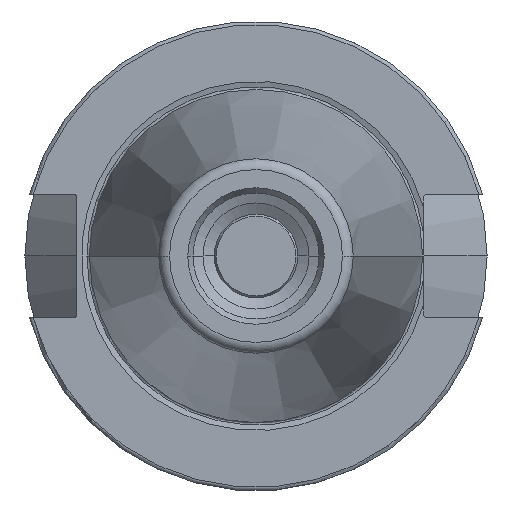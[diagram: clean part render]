
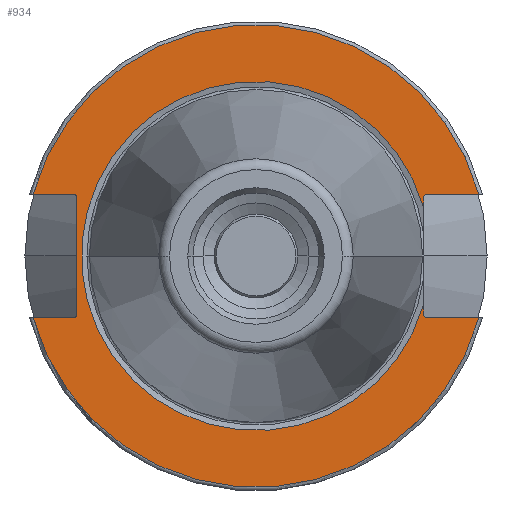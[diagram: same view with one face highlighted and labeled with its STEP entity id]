
A CAD part, left-side view. The second image highlights one B-rep face of the part: STEP entity #934.
In plain terms, the highlighted planar face has unit normal (-1, 0, 0).
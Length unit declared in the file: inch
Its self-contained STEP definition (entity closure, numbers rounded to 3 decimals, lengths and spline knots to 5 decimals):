
#137 = VECTOR ( 'NONE', #6343, 39.37008 ) ;
#167 = VECTOR ( 'NONE', #1855, 39.37008 ) ;
#215 = DIRECTION ( 'NONE',  ( 0., 1., 0. ) ) ;
#340 = EDGE_CURVE ( 'NONE', #7145, #3178, #851, .T. ) ;
#368 = FACE_OUTER_BOUND ( 'NONE', #2582, .T. ) ;
#421 = CARTESIAN_POINT ( 'NONE',  ( 0.125, -1.4125, 0.51 ) ) ;
#426 = AXIS2_PLACEMENT_3D ( 'NONE', #5133, #2143, #1136 ) ;
#531 = CARTESIAN_POINT ( 'NONE',  ( 0.125, 0., -0.51 ) ) ;
#540 = VERTEX_POINT ( 'NONE', #6314 ) ;
#772 = EDGE_CURVE ( 'NONE', #7086, #3706, #1410, .T. ) ;
#793 = ORIENTED_EDGE ( 'NONE', *, *, #340, .T. ) ;
#851 = LINE ( 'NONE', #7061, #3865 ) ;
#866 = DIRECTION ( 'NONE',  ( -1., 0., 0. ) ) ;
#920 = PLANE ( 'NONE',  #2570 ) ;
#934 = ADVANCED_FACE ( 'NONE', ( #368 ), #920, .T. ) ;
#1002 = LINE ( 'NONE', #6868, #137 ) ;
#1080 = LINE ( 'NONE', #3909, #2025 ) ;
#1127 = CARTESIAN_POINT ( 'NONE',  ( 0.125, -1.3825, 0.48 ) ) ;
#1128 = CARTESIAN_POINT ( 'NONE',  ( 0.125, 0., 0. ) ) ;
#1136 = DIRECTION ( 'NONE',  ( 0., 1., 0. ) ) ;
#1187 = VECTOR ( 'NONE', #4223, 39.37008 ) ;
#1242 = CARTESIAN_POINT ( 'NONE',  ( 0.125, 1.4775, 1.9075 ) ) ;
#1325 = CARTESIAN_POINT ( 'NONE',  ( 0.125, 1.5075, 0.51 ) ) ;
#1410 = LINE ( 'NONE', #1242, #167 ) ;
#1554 = DIRECTION ( 'NONE',  ( 0., 0., 1. ) ) ;
#1641 = DIRECTION ( 'NONE',  ( 0., -1., 0. ) ) ;
#1675 = DIRECTION ( 'NONE',  ( 1., 0., 0. ) ) ;
#1701 = EDGE_CURVE ( 'NONE', #3178, #3025, #3741, .T. ) ;
#1711 = CARTESIAN_POINT ( 'NONE',  ( 0.125, -1.4125, 0.48 ) ) ;
#1718 = CARTESIAN_POINT ( 'NONE',  ( 0.125, -1.4125, -0.48 ) ) ;
#1804 = CARTESIAN_POINT ( 'NONE',  ( 0.125, 0., 0.51 ) ) ;
#1855 = DIRECTION ( 'NONE',  ( 0., 0., 1. ) ) ;
#1892 = DIRECTION ( 'NONE',  ( 0., 0., 1. ) ) ;
#1924 = EDGE_CURVE ( 'NONE', #4066, #6279, #7349, .T. ) ;
#1943 = VECTOR ( 'NONE', #4664, 39.37008 ) ;
#2012 = CARTESIAN_POINT ( 'NONE',  ( 0.125, 1.5075, -0.51 ) ) ;
#2025 = VECTOR ( 'NONE', #1554, 39.37008 ) ;
#2045 = CARTESIAN_POINT ( 'NONE',  ( 0.125, 1.5075, -0.48 ) ) ;
#2143 = DIRECTION ( 'NONE',  ( 1., 0., 0. ) ) ;
#2222 = CIRCLE ( 'NONE', #3020, 0.03 ) ;
#2227 = DIRECTION ( 'NONE',  ( 1., 0., 0. ) ) ;
#2401 = LINE ( 'NONE', #531, #1187 ) ;
#2464 = ORIENTED_EDGE ( 'NONE', *, *, #3662, .T. ) ;
#2465 = AXIS2_PLACEMENT_3D ( 'NONE', #1718, #2227, #1641 ) ;
#2538 = AXIS2_PLACEMENT_3D ( 'NONE', #7490, #5005, #6162 ) ;
#2570 = AXIS2_PLACEMENT_3D ( 'NONE', #6289, #866, #5727 ) ;
#2582 = EDGE_LOOP ( 'NONE', ( #4392, #3558, #7113, #5152, #5410, #4890, #793, #5670, #2464, #6307, #5479, #4503, #6570, #6208 ) ) ;
#2591 = DIRECTION ( 'NONE',  ( 1., 0., 0. ) ) ;
#2612 = EDGE_CURVE ( 'NONE', #5014, #6507, #5794, .T. ) ;
#2669 = EDGE_CURVE ( 'NONE', #4693, #7145, #3725, .T. ) ;
#2693 = CARTESIAN_POINT ( 'NONE',  ( 0.125, 1.83806, 0.51 ) ) ;
#2963 = CARTESIAN_POINT ( 'NONE',  ( 0.125, 0., 0.51 ) ) ;
#3020 = AXIS2_PLACEMENT_3D ( 'NONE', #2045, #2591, #4356 ) ;
#3025 = VERTEX_POINT ( 'NONE', #421 ) ;
#3143 = LINE ( 'NONE', #1804, #7432 ) ;
#3178 = VERTEX_POINT ( 'NONE', #1127 ) ;
#3213 = CARTESIAN_POINT ( 'NONE',  ( 0.125, -1.4125, -0.51 ) ) ;
#3393 = EDGE_CURVE ( 'NONE', #3811, #3706, #5607, .T. ) ;
#3538 = LINE ( 'NONE', #2963, #1943 ) ;
#3558 = ORIENTED_EDGE ( 'NONE', *, *, #1924, .F. ) ;
#3662 = EDGE_CURVE ( 'NONE', #3025, #6507, #3538, .T. ) ;
#3706 = VERTEX_POINT ( 'NONE', #5972 ) ;
#3725 = CIRCLE ( 'NONE', #3805, 1.43979 ) ;
#3741 = CIRCLE ( 'NONE', #4799, 0.03 ) ;
#3805 = AXIS2_PLACEMENT_3D ( 'NONE', #6555, #5456, #7722 ) ;
#3811 = VERTEX_POINT ( 'NONE', #1325 ) ;
#3865 = VECTOR ( 'NONE', #1892, 39.37008 ) ;
#3909 = CARTESIAN_POINT ( 'NONE',  ( 0.125, -1.3825, 1.9075 ) ) ;
#4065 = DIRECTION ( 'NONE',  ( 1., 0., 0. ) ) ;
#4066 = VERTEX_POINT ( 'NONE', #4192 ) ;
#4192 = CARTESIAN_POINT ( 'NONE',  ( 0.125, -1.83806, -0.51 ) ) ;
#4223 = DIRECTION ( 'NONE',  ( 0., -1., 0. ) ) ;
#4340 = CARTESIAN_POINT ( 'NONE',  ( 0.125, -1.3825, 0.40209 ) ) ;
#4356 = DIRECTION ( 'NONE',  ( 0., -1., 0. ) ) ;
#4392 = ORIENTED_EDGE ( 'NONE', *, *, #6227, .F. ) ;
#4414 = VERTEX_POINT ( 'NONE', #2012 ) ;
#4503 = ORIENTED_EDGE ( 'NONE', *, *, #3393, .T. ) ;
#4664 = DIRECTION ( 'NONE',  ( 0., -1., 0. ) ) ;
#4693 = VERTEX_POINT ( 'NONE', #5439 ) ;
#4711 = CARTESIAN_POINT ( 'NONE',  ( 0.125, -1.83806, 0.51 ) ) ;
#4799 = AXIS2_PLACEMENT_3D ( 'NONE', #1711, #4065, #7554 ) ;
#4890 = ORIENTED_EDGE ( 'NONE', *, *, #2669, .T. ) ;
#5005 = DIRECTION ( 'NONE',  ( 1., 0., 0. ) ) ;
#5014 = VERTEX_POINT ( 'NONE', #2693 ) ;
#5133 = CARTESIAN_POINT ( 'NONE',  ( 0.125, 0., 0. ) ) ;
#5152 = ORIENTED_EDGE ( 'NONE', *, *, #6106, .T. ) ;
#5410 = ORIENTED_EDGE ( 'NONE', *, *, #6722, .T. ) ;
#5432 = CARTESIAN_POINT ( 'NONE',  ( 0.125, 1.4775, -0.48 ) ) ;
#5439 = CARTESIAN_POINT ( 'NONE',  ( 0.125, -1.3825, -0.40209 ) ) ;
#5456 = DIRECTION ( 'NONE',  ( 1., 0., 0. ) ) ;
#5479 = ORIENTED_EDGE ( 'NONE', *, *, #6276, .F. ) ;
#5607 = CIRCLE ( 'NONE', #2538, 0.03 ) ;
#5670 = ORIENTED_EDGE ( 'NONE', *, *, #1701, .T. ) ;
#5727 = DIRECTION ( 'NONE',  ( 0., -1., 0. ) ) ;
#5794 = CIRCLE ( 'NONE', #426, 1.9075 ) ;
#5808 = EDGE_CURVE ( 'NONE', #7086, #4414, #2222, .T. ) ;
#5922 = EDGE_CURVE ( 'NONE', #4066, #5925, #1002, .T. ) ;
#5925 = VERTEX_POINT ( 'NONE', #3213 ) ;
#5972 = CARTESIAN_POINT ( 'NONE',  ( 0.125, 1.4775, 0.48 ) ) ;
#6106 = EDGE_CURVE ( 'NONE', #5925, #540, #6527, .T. ) ;
#6162 = DIRECTION ( 'NONE',  ( 0., -1., 0. ) ) ;
#6208 = ORIENTED_EDGE ( 'NONE', *, *, #5808, .T. ) ;
#6227 = EDGE_CURVE ( 'NONE', #6279, #4414, #2401, .T. ) ;
#6276 = EDGE_CURVE ( 'NONE', #3811, #5014, #3143, .T. ) ;
#6279 = VERTEX_POINT ( 'NONE', #7746 ) ;
#6289 = CARTESIAN_POINT ( 'NONE',  ( 0.125, 0., 1.9075 ) ) ;
#6307 = ORIENTED_EDGE ( 'NONE', *, *, #2612, .F. ) ;
#6314 = CARTESIAN_POINT ( 'NONE',  ( 0.125, -1.3825, -0.48 ) ) ;
#6343 = DIRECTION ( 'NONE',  ( 0., 1., 0. ) ) ;
#6473 = DIRECTION ( 'NONE',  ( 0., 1., 0. ) ) ;
#6507 = VERTEX_POINT ( 'NONE', #4711 ) ;
#6527 = CIRCLE ( 'NONE', #2465, 0.03 ) ;
#6555 = CARTESIAN_POINT ( 'NONE',  ( 0.125, 0., 0. ) ) ;
#6570 = ORIENTED_EDGE ( 'NONE', *, *, #772, .F. ) ;
#6722 = EDGE_CURVE ( 'NONE', #540, #4693, #1080, .T. ) ;
#6868 = CARTESIAN_POINT ( 'NONE',  ( 0.125, 0., -0.51 ) ) ;
#7061 = CARTESIAN_POINT ( 'NONE',  ( 0.125, -1.3825, 1.9075 ) ) ;
#7086 = VERTEX_POINT ( 'NONE', #5432 ) ;
#7113 = ORIENTED_EDGE ( 'NONE', *, *, #5922, .T. ) ;
#7145 = VERTEX_POINT ( 'NONE', #4340 ) ;
#7315 = AXIS2_PLACEMENT_3D ( 'NONE', #1128, #1675, #6473 ) ;
#7349 = CIRCLE ( 'NONE', #7315, 1.9075 ) ;
#7432 = VECTOR ( 'NONE', #215, 39.37008 ) ;
#7490 = CARTESIAN_POINT ( 'NONE',  ( 0.125, 1.5075, 0.48 ) ) ;
#7554 = DIRECTION ( 'NONE',  ( 0., -1., 0. ) ) ;
#7722 = DIRECTION ( 'NONE',  ( 0., 1., 0. ) ) ;
#7746 = CARTESIAN_POINT ( 'NONE',  ( 0.125, 1.83806, -0.51 ) ) ;
